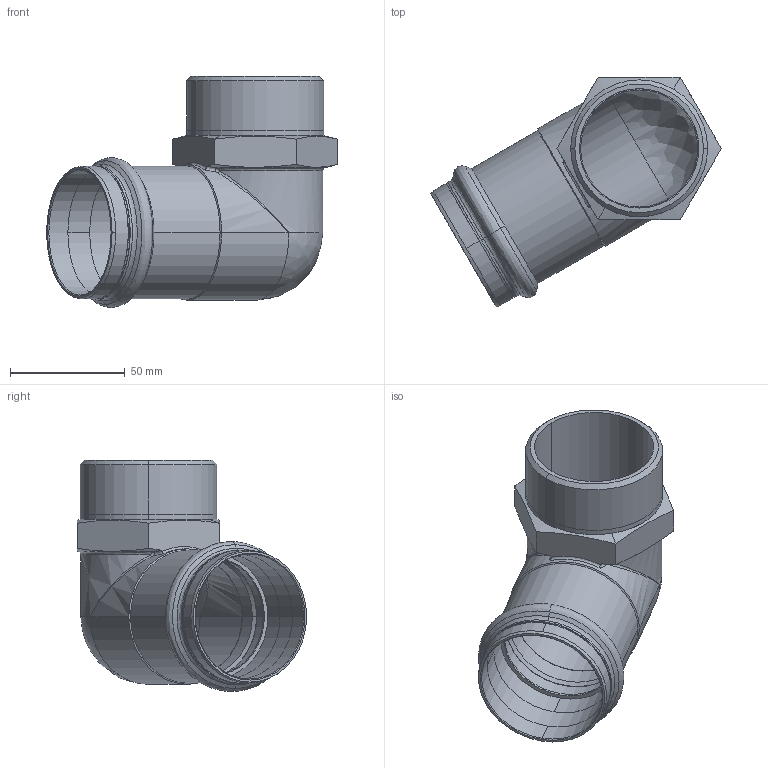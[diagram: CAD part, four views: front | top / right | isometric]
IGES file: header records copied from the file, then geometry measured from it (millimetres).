
Start section: Elysium IGES Interface
Global section: file name: F:\3d modellen sudo\S-Pr VP\SP6092GV\6092GVW542.igs; native system: CoCreate Modeling 17.00A  17-Jun-2010; preprocessor: CoCreate IGES_3D V2.2; author: Unknown; organization: Unknown; date: 20130124.152214; units: millimetre
Bounding box: 126.6 x 99.88 x 100.65 mm (x, y, z)
Volume: 92786 mm3; surface area: 56819.2 mm2
Topology: 1 solids, 1 shells, 88 faces, 206 edges, 122 vertices
Faces by surface type: bspline 88
